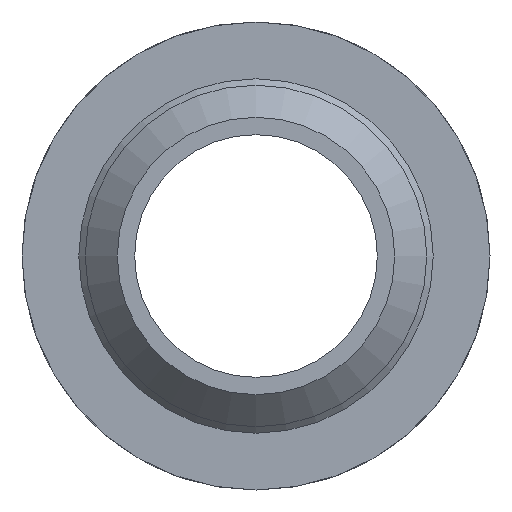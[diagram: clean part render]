
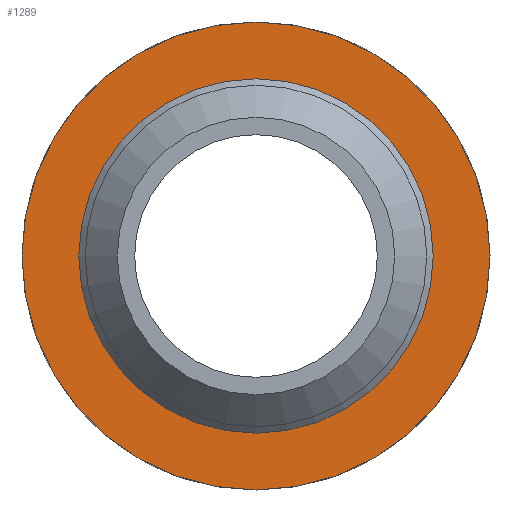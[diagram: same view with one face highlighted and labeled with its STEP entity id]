
A CAD part, left-side view. The second image highlights one B-rep face of the part: STEP entity #1289.
In plain terms, the highlighted planar face has unit normal (-1, 0, 0).
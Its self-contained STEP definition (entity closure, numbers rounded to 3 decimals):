
#199=CARTESIAN_POINT('',(-17.643,20.45,0.));
#200=VERTEX_POINT('',#199);
#201=CARTESIAN_POINT('',(-17.643,0.,0.));
#202=DIRECTION('',(1.0,0.0,0.0));
#203=DIRECTION('',(0.0,1.0,0.0));
#204=AXIS2_PLACEMENT_3D('',#201,#202,#203);
#205=CIRCLE('',#204,20.45);
#206=EDGE_CURVE('',#200,#200,#205,.T.);
#1270=CARTESIAN_POINT('',(-17.643,23.725,0.));
#1271=DIRECTION('',(-1.0,0.0,0.0));
#1272=DIRECTION('',(0.0,0.0,1.0));
#1273=AXIS2_PLACEMENT_3D('',#1270,#1271,#1272);
#1274=PLANE('',#1273);
#1275=CARTESIAN_POINT('',(-17.643,27.,0.));
#1276=VERTEX_POINT('',#1275);
#1277=CARTESIAN_POINT('',(-17.643,0.,0.));
#1278=DIRECTION('',(1.0,0.0,0.0));
#1279=DIRECTION('',(0.0,1.0,0.0));
#1280=AXIS2_PLACEMENT_3D('',#1277,#1278,#1279);
#1281=CIRCLE('',#1280,27.);
#1282=EDGE_CURVE('',#1276,#1276,#1281,.T.);
#1283=ORIENTED_EDGE('',*,*,#1282,.F.);
#1284=EDGE_LOOP('',(#1283));
#1285=FACE_OUTER_BOUND('',#1284,.T.);
#1286=ORIENTED_EDGE('',*,*,#206,.T.);
#1287=EDGE_LOOP('',(#1286));
#1288=FACE_BOUND('',#1287,.T.);
#1289=ADVANCED_FACE('',(#1285,#1288),#1274,.T.);
